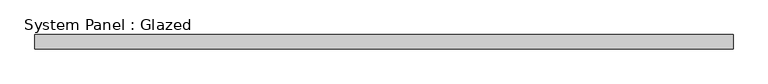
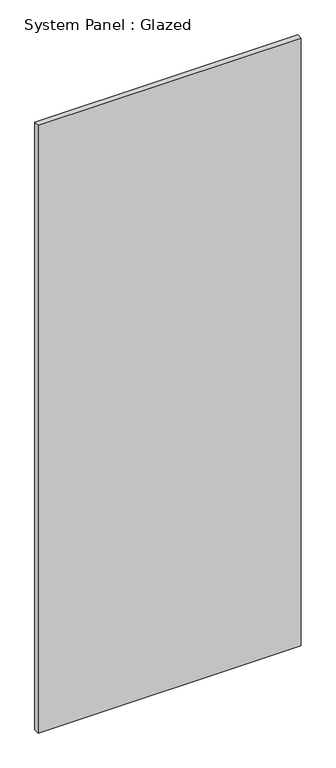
"""IFC4 building model written with IfcOpenShell, lengths in millimetres: plate geometry, System Panel : Glazed."""

from ifc_helpers import new_model, si_unit, origin, origin_with_axes, place, context, project, spatial, polyline, outline, extrude, source, transform, mapped, element, save


def system_panel_glazed_51c864c8(model_context):
    return source(origin(), model_context, "Body", "SweptSolid", [
        extrude(outline(polyline([(619.125, -44.45), (-619.125, -44.45), (-619.125, -19.05), (619.125, -19.05), (619.125, -44.45)])), origin_with_axes(), (0.0, 0.0, 1.0), 3022.6),
    ])


if __name__ == "__main__":
    model = new_model("IFC4")
    model_context = context("Model", 3, world=origin())
    ifc_project = project(units=[si_unit("LENGTHUNIT", "METRE", prefix="MILLI")], contexts=[model_context])
    site = spatial("IfcSite", under=ifc_project)
    building = spatial("IfcBuilding", under=site)
    placement = place(None, origin())
    system_panel_glazed_shape = system_panel_glazed_51c864c8(model_context)
    element("IfcPlate", 1, ObjectType="System Panel : Glazed", at=placement, inside=building, context=model_context, shape_type="MappedRepresentation", body=[
        mapped(system_panel_glazed_shape, transform((0.0, 0.0, 0.0), x_axis=(1.0, 0.0, 0.0), y_axis=(0.0, 1.0, 0.0), z_axis=(0.0, 0.0, 1.0))),
    ])
    save(model, "model.ifc")
